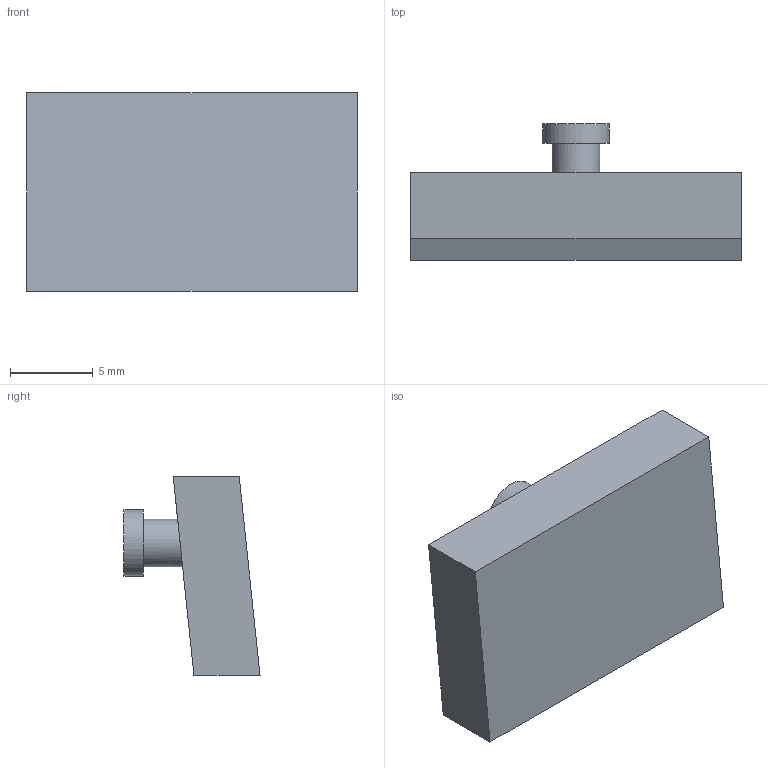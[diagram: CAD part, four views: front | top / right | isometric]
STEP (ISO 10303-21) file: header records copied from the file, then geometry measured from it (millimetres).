
FILE_DESCRIPTION(('Open CASCADE Model'),'2;1');
FILE_NAME('Open CASCADE Shape Model','2026-10-17T22:10:43',('Author'),( 'Open CASCADE'),'Open CASCADE STEP processor 7.9','Open CASCADE 7.9' ,'Unknown');
FILE_SCHEMA(('AUTOMOTIVE_DESIGN { 1 0 10303 214 1 1 1 1 }'));
Length unit declared in the file: millimetre
Products named in the file (1): Open CASCADE STEP translator 7.9 37
Bounding box: 20 x 8.24 x 12 mm (x, y, z)
Volume: 989.5 mm3; surface area: 785.6 mm2
Topology: 1 solids, 1 shells, 10 faces, 18 edges, 12 vertices
Faces by surface type: plane 8, cylinder 2
Full cylindrical faces by diameter (mm): 2.9 x1, 4 x1
Entity records: 512 total; most frequent: CARTESIAN_POINT 110, DIRECTION 76, LINE 45, VECTOR 45, ORIENTED_EDGE 36, PCURVE 36, DEFINITIONAL_REPRESENTATION 36, EDGE_CURVE 18
